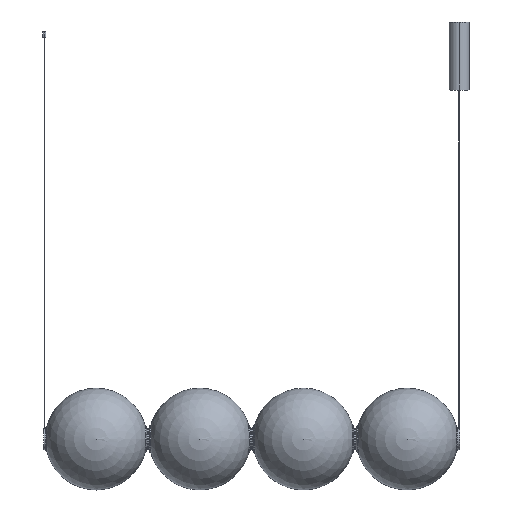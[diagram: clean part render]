
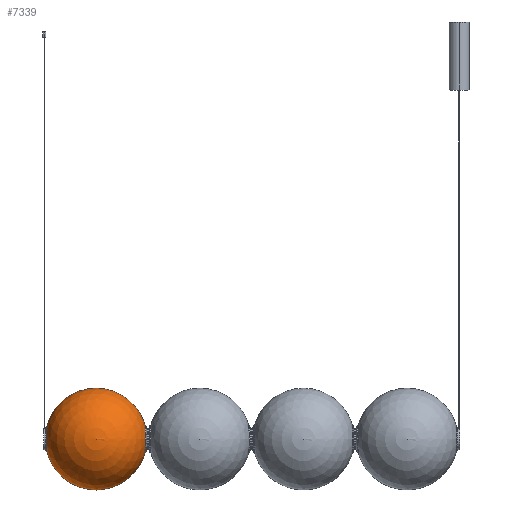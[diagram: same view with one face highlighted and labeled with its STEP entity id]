
A CAD part, top view. The second image highlights one B-rep face of the part: STEP entity #7339.
In plain terms, the highlighted spherical face has radius 150 mm.
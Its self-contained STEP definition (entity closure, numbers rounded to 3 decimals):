
#290 = DIRECTION ( 'NONE',  ( -1., 0., 0. ) ) ;
#561 = AXIS2_PLACEMENT_3D ( 'NONE', #6823, #939, #7464 ) ;
#794 = ORIENTED_EDGE ( 'NONE', *, *, #2013, .F. ) ;
#939 = DIRECTION ( 'NONE',  ( 0., 0., 1. ) ) ;
#1444 = EDGE_CURVE ( 'NONE', #4370, #2399, #5403, .T. ) ;
#1458 = CARTESIAN_POINT ( 'NONE',  ( 0., -150., 0. ) ) ;
#2013 = EDGE_CURVE ( 'NONE', #4370, #2399, #6815, .T. ) ;
#2302 = CARTESIAN_POINT ( 'NONE',  ( 0., 0., 0. ) ) ;
#2399 = VERTEX_POINT ( 'NONE', #1458 ) ;
#2617 = SPHERICAL_SURFACE ( 'NONE', #561, 150. ) ;
#3959 = DIRECTION ( 'NONE',  ( 0., 0., -1. ) ) ;
#4108 = DIRECTION ( 'NONE',  ( 0., 0., 1. ) ) ;
#4370 = VERTEX_POINT ( 'NONE', #5717 ) ;
#5140 = FACE_OUTER_BOUND ( 'NONE', #7021, .T. ) ;
#5403 = CIRCLE ( 'NONE', #5544, 150. ) ;
#5544 = AXIS2_PLACEMENT_3D ( 'NONE', #2302, #4108, #6457 ) ;
#5717 = CARTESIAN_POINT ( 'NONE',  ( 0., 150., 0. ) ) ;
#6457 = DIRECTION ( 'NONE',  ( 1., 0., 0. ) ) ;
#6815 = CIRCLE ( 'NONE', #6913, 150. ) ;
#6823 = CARTESIAN_POINT ( 'NONE',  ( 0., 0., 0. ) ) ;
#6913 = AXIS2_PLACEMENT_3D ( 'NONE', #7595, #3959, #290 ) ;
#7021 = EDGE_LOOP ( 'NONE', ( #794, #7054 ) ) ;
#7054 = ORIENTED_EDGE ( 'NONE', *, *, #1444, .T. ) ;
#7339 = ADVANCED_FACE ( 'NONE', ( #5140 ), #2617, .T. ) ;
#7464 = DIRECTION ( 'NONE',  ( 1., 0., 0. ) ) ;
#7595 = CARTESIAN_POINT ( 'NONE',  ( 0., 0., 0. ) ) ;
